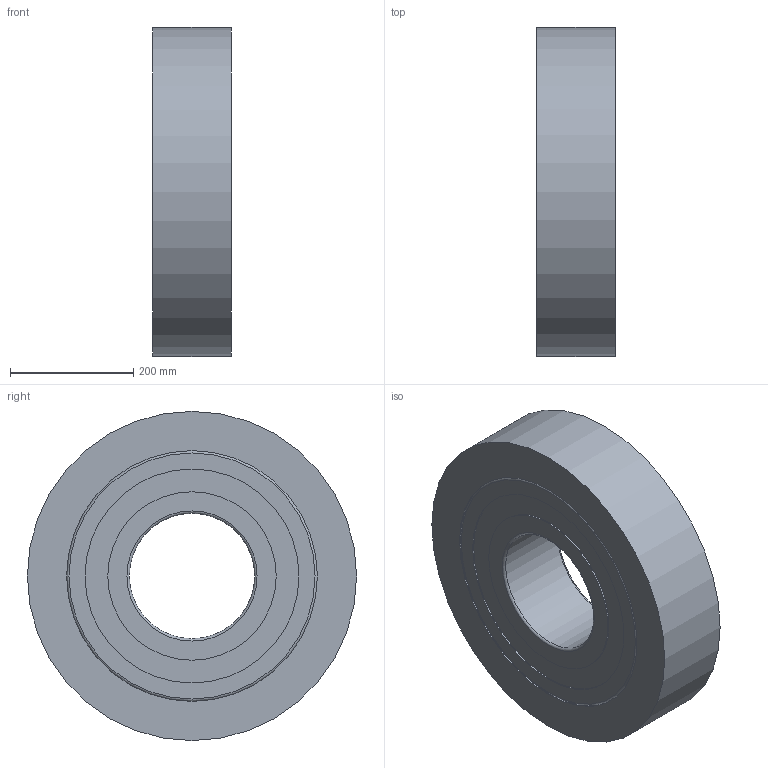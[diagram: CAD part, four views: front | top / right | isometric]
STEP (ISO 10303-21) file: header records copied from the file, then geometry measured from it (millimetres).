
FILE_DESCRIPTION((''),'1');
FILE_NAME('H:/図庫/国内ﾕﾆｯﾄ/ｶﾀﾛｸﾞ/ｺﾞﾑ直巻/ホームページ用ＣＡＤ図面/update用/3', '2017-07-14T09:04:37',(''), (''), 'KCM Version 1.1.1442.0', 'Kubotek KeyCreator', '');
FILE_SCHEMA(('AUTOMOTIVE_DESIGN'));
Length unit declared in the file: inch
Bounding box: 127 x 533.4 x 533.4 mm (x, y, z)
Surface area: 699032.8 mm2 (no closed solid volume)
Topology: 0 solids, 20 shells, 20 faces, 68 edges, 56 vertices
Faces by surface type: cylinder 8, plane 8, torus 4
Full cylindrical faces by diameter (mm): 203.2 x1, 273.05 x2, 346.71 x2, 406.4 x2, 533.4 x1
Entity records: 790 total; most frequent: DIRECTION 154, CARTESIAN_POINT 137, ORIENTED_EDGE 80, AXIS2_PLACEMENT_3D 73, EDGE_CURVE 68, VERTEX_POINT 56, CIRCLE 52, EDGE_LOOP 28
